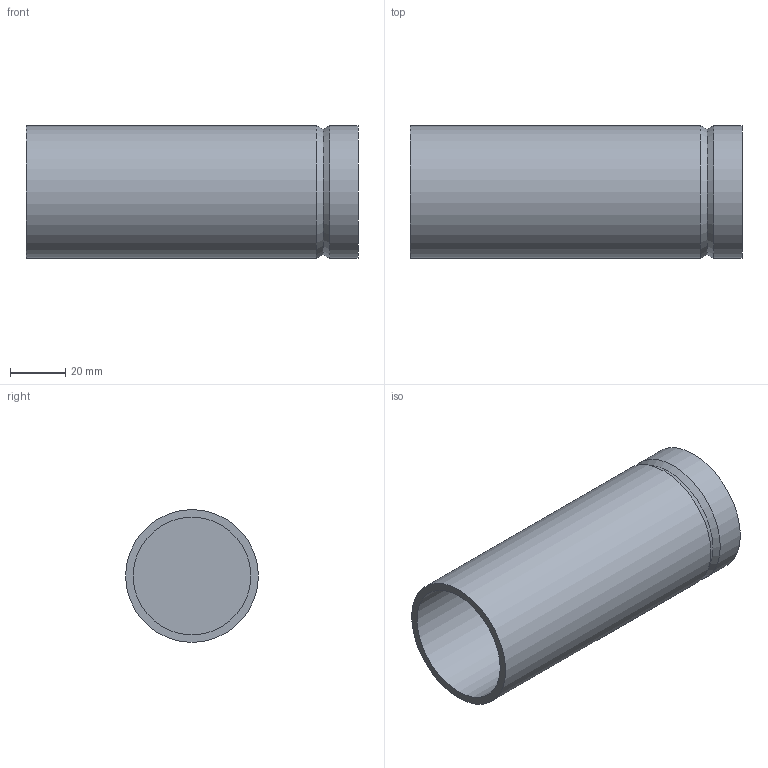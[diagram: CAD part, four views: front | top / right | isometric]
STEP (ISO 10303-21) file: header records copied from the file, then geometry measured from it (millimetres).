
FILE_DESCRIPTION(/* description */ ('VIC END CAP STYLE P540','CAx-IF Rec.Pracs.---Representation and Presentation of Product Manufacturing Information (PMI)---4.0---2014-10-13'),/* implementation_level */ '2;1');
FILE_NAME(/* name */ 'C:\Users\Vjadhav\AppData\Roaming\Autodesk\ApplicationPlugins\Back Up\Victaulic_SS-Vic-Press-TP 304_Cap_Style P540 (VP)\Victaulic_SS-Vic-Press-TP 304_Cap_Style P540 (VP)_1.5 (40).stp',/* time_stamp */ '2020-08-12T15:35:30+05:00',/* author */ ('cgray'),/* organization */ ('Victaulic'),/* preprocessor_version */ 'ST-DEVELOPER v17.2',/* originating_system */ 'Autodesk Inventor 2019',/* authorisation */ '');
FILE_SCHEMA (('AP242_MANAGED_MODEL_BASED_3D_ENGINEERING_MIM_LF { 1 0 10303 442 1 1 4 }'));
Length unit declared in the file: inch
Products named in the file (1): P540-01.5
Bounding box: 120.65 x 48.26 x 48.26 mm (x, y, z)
Volume: 51213.6 mm3; surface area: 37860.7 mm2
Topology: 1 solids, 1 shells, 8 faces, 19 edges, 14 vertices
Faces by surface type: plane 3, cylinder 3, cone 2
Full cylindrical faces by diameter (mm): 42.723 x1, 48.26 x2
Entity records: 389 total; most frequent: DIRECTION 77, CARTESIAN_POINT 59, ORIENTED_EDGE 38, AXIS2_PLACEMENT_3D 36, EDGE_CURVE 19, CIRCLE 14, VERTEX_POINT 14, STYLED_ITEM 10
